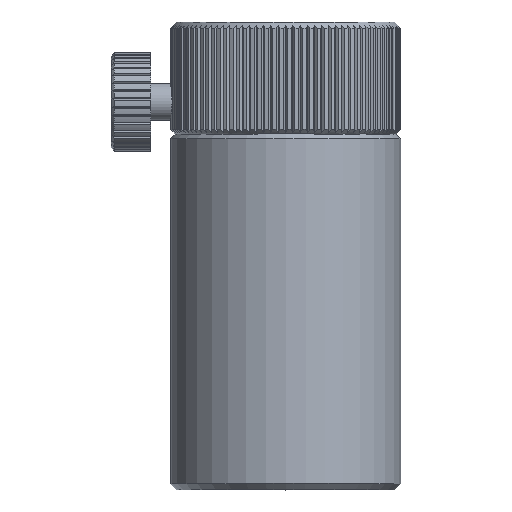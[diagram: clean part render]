
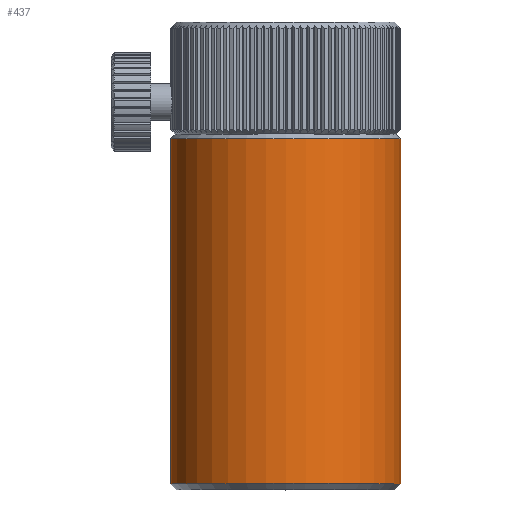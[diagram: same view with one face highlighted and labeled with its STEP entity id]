
A CAD part, top view. The second image highlights one B-rep face of the part: STEP entity #437.
In plain terms, the highlighted cylindrical face has radius 18.75 mm (diameter 37.5 mm), a full revolution.
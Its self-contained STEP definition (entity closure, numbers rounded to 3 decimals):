
#437 = ADVANCED_FACE ( 'NONE', ( #1312, #1319, #1325 ), #1329, .T. ) ;
#1312 = FACE_OUTER_BOUND ( 'NONE', #9543, .T. ) ;
#1319 = FACE_BOUND ( 'NONE', #9542, .T. ) ;
#1325 = FACE_OUTER_BOUND ( 'NONE', #9546, .T. ) ;
#1329 = CYLINDRICAL_SURFACE ( 'NONE', #13171, 18.75 ) ;
#3243 = B_SPLINE_CURVE_WITH_KNOTS ( 'NONE', 3,
 ( #6178, #6182, #6183, #6184, #6185, #6186, #6187, #6188, #6189, #6190, #6191, #6192, #6193, #6194, #6195, #6196, #6197, #6198, #6199, #6200, #6201, #6202, #6203, #6204, #6205, #6206, #6207, #6208, #6209, #6210, #6211, #6212, #6213, #6214, #6215, #6216, #6217, #6218, #6219, #6220, #6221, #6222, #6223, #6224, #6225, #6226, #6227, #6228, #6229, #6230, #6231, #6232 ),
 .UNSPECIFIED., .T., .F.,
 ( 4, 2, 2, 2, 2, 2, 2, 2, 2, 2, 2, 2, 2, 2, 2, 2, 2, 2, 2, 2, 2, 2, 2, 2, 2, 4 ),
 ( 0., 0., 0.001, 0.001, 0.001, 0.002, 0.002, 0.003, 0.003, 0.003, 0.004, 0.004, 0.004, 0.004, 0.005, 0.005, 0.006, 0.006, 0.006, 0.007, 0.007, 0.008, 0.008, 0.008, 0.009, 0.009 ),
 .UNSPECIFIED. ) ;
#4866 = VERTEX_POINT ( 'NONE', #12757 ) ;
#4867 = VERTEX_POINT ( 'NONE', #12758 ) ;
#4868 = VERTEX_POINT ( 'NONE', #12759 ) ;
#5528 = CIRCLE ( 'NONE', #12437, 18.75 ) ;
#5529 = CIRCLE ( 'NONE', #12439, 18.75 ) ;
#6175 = CARTESIAN_POINT ( 'NONE',  ( -6.15, -6.112, 0. ) ) ;
#6176 = DIRECTION ( 'NONE',  ( 0., 1., 0. ) ) ;
#6177 = DIRECTION ( 'NONE',  ( -1., 0., 0. ) ) ;
#6178 = CARTESIAN_POINT ( 'NONE',  ( -24.9, 45.588, 0. ) ) ;
#6179 = CARTESIAN_POINT ( 'NONE',  ( -6.15, 50.088, 0. ) ) ;
#6180 = DIRECTION ( 'NONE',  ( 0., -1., 0. ) ) ;
#6181 = DIRECTION ( 'NONE',  ( 1., 0., 0. ) ) ;
#6182 = CARTESIAN_POINT ( 'NONE',  ( -24.9, 45.588, -0.099 ) ) ;
#6183 = CARTESIAN_POINT ( 'NONE',  ( -24.899, 45.597, -0.197 ) ) ;
#6184 = CARTESIAN_POINT ( 'NONE',  ( -24.896, 45.635, -0.388 ) ) ;
#6185 = CARTESIAN_POINT ( 'NONE',  ( -24.894, 45.664, -0.484 ) ) ;
#6186 = CARTESIAN_POINT ( 'NONE',  ( -24.888, 45.74, -0.665 ) ) ;
#6187 = CARTESIAN_POINT ( 'NONE',  ( -24.885, 45.786, -0.751 ) ) ;
#6188 = CARTESIAN_POINT ( 'NONE',  ( -24.878, 45.894, -0.914 ) ) ;
#6189 = CARTESIAN_POINT ( 'NONE',  ( -24.874, 45.958, -0.992 ) ) ;
#6190 = CARTESIAN_POINT ( 'NONE',  ( -24.862, 46.165, -1.199 ) ) ;
#6191 = CARTESIAN_POINT ( 'NONE',  ( -24.854, 46.333, -1.311 ) ) ;
#6192 = CARTESIAN_POINT ( 'NONE',  ( -24.843, 46.694, -1.46 ) ) ;
#6193 = CARTESIAN_POINT ( 'NONE',  ( -24.84, 46.891, -1.5 ) ) ;
#6194 = CARTESIAN_POINT ( 'NONE',  ( -24.84, 47.185, -1.5 ) ) ;
#6195 = CARTESIAN_POINT ( 'NONE',  ( -24.84, 47.284, -1.49 ) ) ;
#6196 = CARTESIAN_POINT ( 'NONE',  ( -24.844, 47.476, -1.452 ) ) ;
#6197 = CARTESIAN_POINT ( 'NONE',  ( -24.846, 47.57, -1.424 ) ) ;
#6198 = CARTESIAN_POINT ( 'NONE',  ( -24.851, 47.752, -1.349 ) ) ;
#6199 = CARTESIAN_POINT ( 'NONE',  ( -24.855, 47.839, -1.302 ) ) ;
#6200 = CARTESIAN_POINT ( 'NONE',  ( -24.862, 48.002, -1.193 ) ) ;
#6201 = CARTESIAN_POINT ( 'NONE',  ( -24.866, 48.078, -1.131 ) ) ;
#6202 = CARTESIAN_POINT ( 'NONE',  ( -24.874, 48.218, -0.991 ) ) ;
#6203 = CARTESIAN_POINT ( 'NONE',  ( -24.878, 48.28, -0.915 ) ) ;
#6204 = CARTESIAN_POINT ( 'NONE',  ( -24.885, 48.389, -0.753 ) ) ;
#6205 = CARTESIAN_POINT ( 'NONE',  ( -24.888, 48.436, -0.665 ) ) ;
#6206 = CARTESIAN_POINT ( 'NONE',  ( -24.894, 48.511, -0.484 ) ) ;
#6207 = CARTESIAN_POINT ( 'NONE',  ( -24.896, 48.539, -0.39 ) ) ;
#6208 = CARTESIAN_POINT ( 'NONE',  ( -24.899, 48.578, -0.198 ) ) ;
#6209 = CARTESIAN_POINT ( 'NONE',  ( -24.9, 48.588, -0.098 ) ) ;
#6210 = CARTESIAN_POINT ( 'NONE',  ( -24.9, 48.588, 0.195 ) ) ;
#6211 = CARTESIAN_POINT ( 'NONE',  ( -24.897, 48.548, 0.393 ) ) ;
#6212 = CARTESIAN_POINT ( 'NONE',  ( -24.886, 48.399, 0.754 ) ) ;
#6213 = CARTESIAN_POINT ( 'NONE',  ( -24.878, 48.287, 0.921 ) ) ;
#6214 = CARTESIAN_POINT ( 'NONE',  ( -24.866, 48.08, 1.129 ) ) ;
#6215 = CARTESIAN_POINT ( 'NONE',  ( -24.862, 48.003, 1.192 ) ) ;
#6216 = CARTESIAN_POINT ( 'NONE',  ( -24.855, 47.84, 1.301 ) ) ;
#6217 = CARTESIAN_POINT ( 'NONE',  ( -24.851, 47.754, 1.347 ) ) ;
#6218 = CARTESIAN_POINT ( 'NONE',  ( -24.846, 47.573, 1.423 ) ) ;
#6219 = CARTESIAN_POINT ( 'NONE',  ( -24.844, 47.477, 1.452 ) ) ;
#6220 = CARTESIAN_POINT ( 'NONE',  ( -24.841, 47.285, 1.49 ) ) ;
#6221 = CARTESIAN_POINT ( 'NONE',  ( -24.84, 47.188, 1.5 ) ) ;
#6222 = CARTESIAN_POINT ( 'NONE',  ( -24.84, 46.891, 1.5 ) ) ;
#6223 = CARTESIAN_POINT ( 'NONE',  ( -24.843, 46.696, 1.461 ) ) ;
#6224 = CARTESIAN_POINT ( 'NONE',  ( -24.851, 46.423, 1.349 ) ) ;
#6225 = CARTESIAN_POINT ( 'NONE',  ( -24.855, 46.337, 1.303 ) ) ;
#6226 = CARTESIAN_POINT ( 'NONE',  ( -24.862, 46.174, 1.194 ) ) ;
#6227 = CARTESIAN_POINT ( 'NONE',  ( -24.866, 46.097, 1.131 ) ) ;
#6228 = CARTESIAN_POINT ( 'NONE',  ( -24.878, 45.889, 0.923 ) ) ;
#6229 = CARTESIAN_POINT ( 'NONE',  ( -24.885, 45.777, 0.756 ) ) ;
#6230 = CARTESIAN_POINT ( 'NONE',  ( -24.897, 45.627, 0.395 ) ) ;
#6231 = CARTESIAN_POINT ( 'NONE',  ( -24.9, 45.588, 0.198 ) ) ;
#6232 = CARTESIAN_POINT ( 'NONE',  ( -24.9, 45.588, 0. ) ) ;
#9334 = DIRECTION ( 'NONE',  ( -1., 0., 0. ) ) ;
#9335 = CARTESIAN_POINT ( 'NONE',  ( -6.15, 25.763, 0. ) ) ;
#9336 = DIRECTION ( 'NONE',  ( 0., 1., 0. ) ) ;
#9542 = EDGE_LOOP ( 'NONE', ( #13854 ) ) ;
#9543 = EDGE_LOOP ( 'NONE', ( #13853 ) ) ;
#9546 = EDGE_LOOP ( 'NONE', ( #13855 ) ) ;
#10633 = EDGE_CURVE ( 'NONE', #4866, #4866, #5528, .T. ) ;
#10634 = EDGE_CURVE ( 'NONE', #4867, #4867, #5529, .T. ) ;
#10635 = EDGE_CURVE ( 'NONE', #4868, #4868, #3243, .T. ) ;
#12437 = AXIS2_PLACEMENT_3D ( 'NONE', #6175, #6176, #6177 ) ;
#12439 = AXIS2_PLACEMENT_3D ( 'NONE', #6179, #6180, #6181 ) ;
#12757 = CARTESIAN_POINT ( 'NONE',  ( -24.9, -6.112, 0. ) ) ;
#12758 = CARTESIAN_POINT ( 'NONE',  ( 12.6, 50.088, 0. ) ) ;
#12759 = CARTESIAN_POINT ( 'NONE',  ( -24.9, 45.588, 0. ) ) ;
#13171 = AXIS2_PLACEMENT_3D ( 'NONE', #9335, #9336, #9334 ) ;
#13853 = ORIENTED_EDGE ( 'NONE', *, *, #10634, .T. ) ;
#13854 = ORIENTED_EDGE ( 'NONE', *, *, #10635, .T. ) ;
#13855 = ORIENTED_EDGE ( 'NONE', *, *, #10633, .T. ) ;
